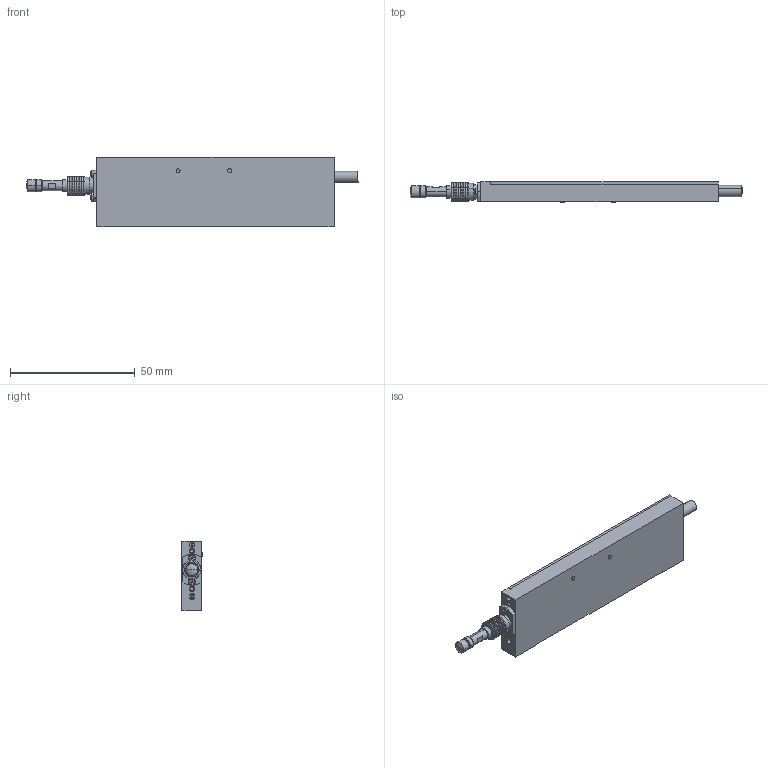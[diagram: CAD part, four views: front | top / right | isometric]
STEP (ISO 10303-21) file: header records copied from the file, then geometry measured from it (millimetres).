
FILE_DESCRIPTION (( 'STEP AP203' ), '1' );
FILE_NAME ('MSA8-010-01-0-CS_G.STEP', '2022-01-31T21:43:31', ( '' ), ( '' ), 'SwSTEP 2.0', 'SolidWorks 2020', '' );
FILE_SCHEMA (( 'CONFIG_CONTROL_DESIGN' ));
Length unit declared in the file: millimetre
Products named in the file (1): MSA8-010-01-0-CS_G
Bounding box: 132.88 x 8.3 x 28 mm (x, y, z)
Volume: 21490.8 mm3; surface area: 14191.7 mm2
Topology: 3 solids, 17 shells, 541 faces, 1371 edges, 855 vertices
Faces by surface type: plane 191, cone 157, cylinder 156, torus 27, sphere 10
Entity records: 16501 total; most frequent: CARTESIAN_POINT 3225, DIRECTION 2890, ORIENTED_EDGE 2690, EDGE_CURVE 1345, AXIS2_PLACEMENT_3D 1126, VERTEX_POINT 855, LINE 638, VECTOR 638
